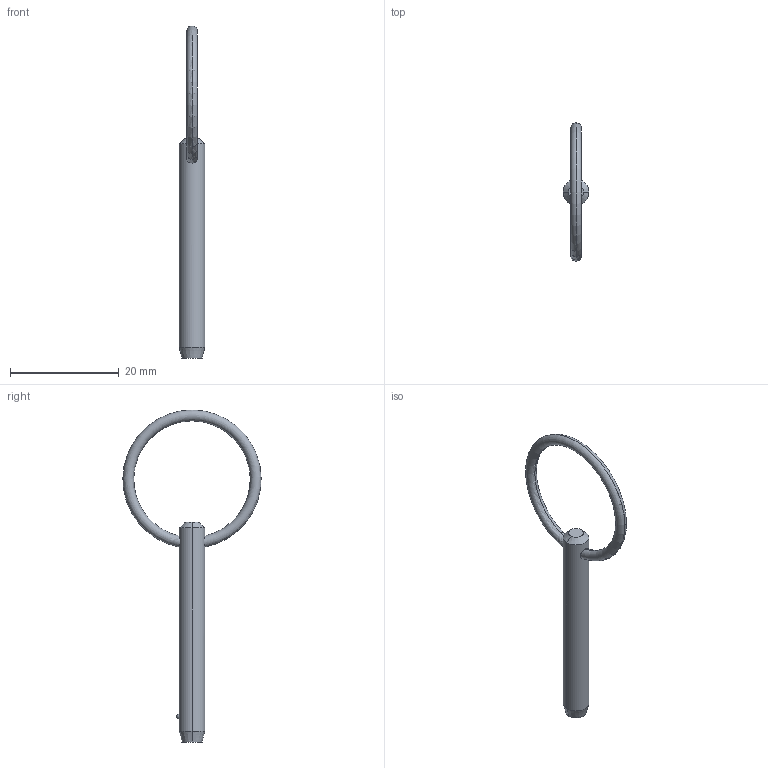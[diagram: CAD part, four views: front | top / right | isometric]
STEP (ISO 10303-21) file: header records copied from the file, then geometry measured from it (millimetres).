
FILE_DESCRIPTION (( 'STEP AP203' ), '1' );
FILE_NAME ('P1250.018-120.step', '2019-07-29T19:31:11', ( '' ), ( '' ), 'SwSTEP 2.0', 'SolidWorks 2017', '' );
FILE_SCHEMA (( 'CONFIG_CONTROL_DESIGN' ));
Length unit declared in the file: millimetre
Products named in the file (1): P1250.018-120
Bounding box: 4.76 x 25.4 x 60.98 mm (x, y, z)
Volume: 920.1 mm3; surface area: 1046.1 mm2
Topology: 1 solids, 1 shells, 12 faces, 28 edges, 17 vertices
Faces by surface type: cone 4, torus 2, sphere 2, cylinder 2, plane 2
Entity records: 471 total; most frequent: CARTESIAN_POINT 138, DIRECTION 56, ORIENTED_EDGE 48, AXIS2_PLACEMENT_3D 25, EDGE_CURVE 24, VERTEX_POINT 15, EDGE_LOOP 15, ADVANCED_FACE 12
